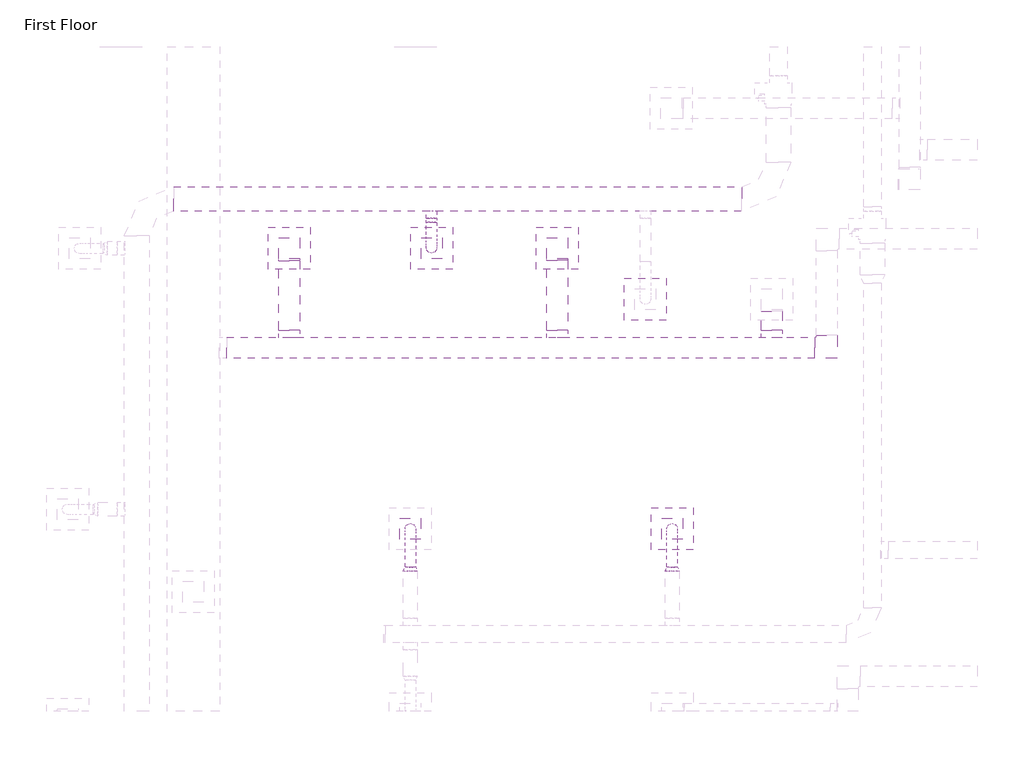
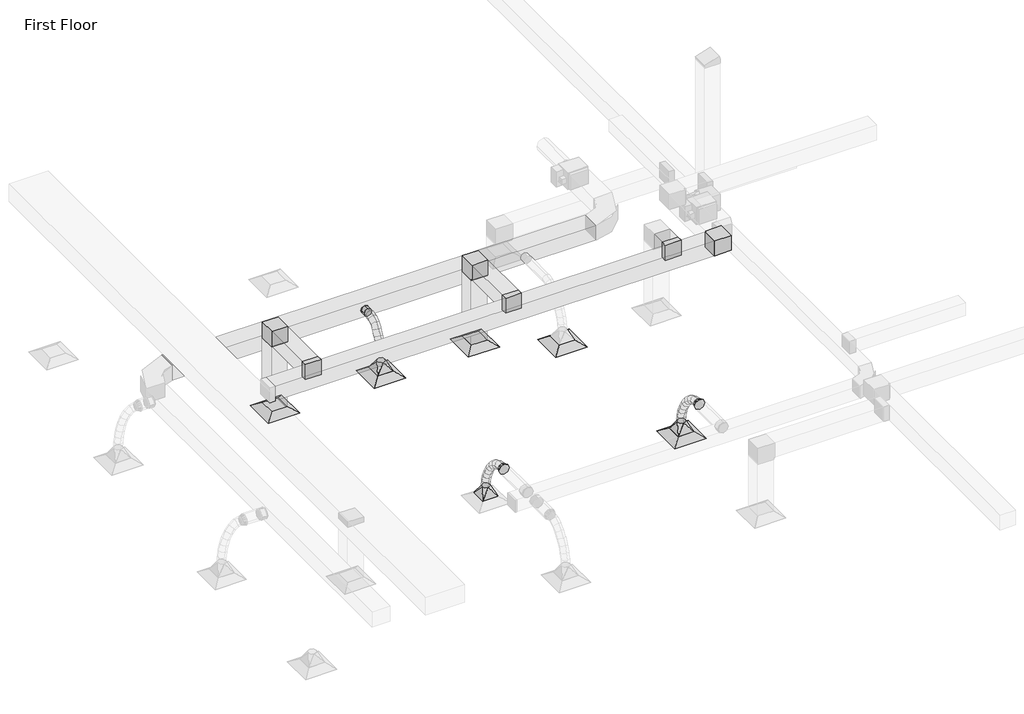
# One storey, part 35 of 61: 12 duct fittings, 11 duct segments, 5 air terminals.
"""IFC4 building model written with IfcOpenShell, lengths in millimetres."""

from ifc_helpers import new_model, si_unit, point, frame, frame_2d, origin, place, context, project, spatial, polyline, circle_curve, ellipse_curve, trimmed, segment, composite_curve, outline, extrude, transform, mapped, element, save
from ifc_brep_helpers import plane_surface, cylinder_surface, advanced_brep
from components import m_exhaust_grill_er_600_x_600_face_300_x_300_connection_ff221211, m_rectangular_elbow_mitered_standard_8eee5933, m_rectangular_takeoff_standard_c00386d1, m_rectangular_to_round_transition_angle_45_degree_8f201c83, m_round_takeoff_standard_2721f8a4, m_round_transition_angle_45_degree_6d7b59ce

model = new_model("IFC4")

# Units and contexts
model_context = context("Model", 3, world=origin())
ifc_project = project(units=[si_unit("LENGTHUNIT", "METRE", prefix="MILLI")], contexts=[model_context])

# Site, building, storey
site = spatial("IfcSite", under=ifc_project)
building = spatial("IfcBuilding", under=site)
storey = spatial("IfcBuildingStorey", under=building, Name="First Floor", Elevation=0.0)

# Air terminals
placement = place(None, origin())
m_exhaust_grill_er_600_x_600_face_300_x_300_connection_shape = m_exhaust_grill_er_600_x_600_face_300_x_300_connection_ff221211(model_context)
element("IfcAirTerminal", 1, ObjectType="M_Return Register : RR-600 x 600 Face 300 x 300 Connection", at=placement, inside=storey, context=model_context, shape_type="MappedRepresentation", body=[
    mapped(m_exhaust_grill_er_600_x_600_face_300_x_300_connection_shape, transform((-47840.5267487, 36905.5458289, 2680.0), x_axis=(1.0, 0.0, 0.0), y_axis=(0.0, 1.0, 0.0), z_axis=(0.0, 0.0, 1.0))),
])
element("IfcAirTerminal", 2, ObjectType="M_Return Register : RR-600 x 600 Face 300 x 300 Connection", at=placement, inside=storey, context=model_context, shape_type="MappedRepresentation", body=[
    mapped(m_exhaust_grill_er_600_x_600_face_300_x_300_connection_shape, transform((-44014.0838167, 36909.8278666, 2680.0), x_axis=(1.0, 0.0, 0.0), y_axis=(0.0, 1.0, 0.0), z_axis=(0.0, 0.0, 1.0))),
])
element("IfcAirTerminal", 3, ObjectType="M_Supply Diffuser : SD-600 x 600 Face 300 x 300 Connection", at=placement, inside=storey, context=model_context, shape_type="MappedRepresentation", body=[
    mapped(m_exhaust_grill_er_600_x_600_face_300_x_300_connection_shape, transform((-45810.12522, 36909.8278666, 2680.0), x_axis=(1.0, 0.0, 0.0), y_axis=(0.0, 1.0, 0.0), z_axis=(0.0, 0.0, 1.0))),
])
element("IfcAirTerminal", 4, ObjectType="M_Supply Diffuser : SD-600 x 600 Face 300 x 300 Connection", at=placement, inside=storey, context=model_context, shape_type="MappedRepresentation", body=[
    mapped(m_exhaust_grill_er_600_x_600_face_300_x_300_connection_shape, transform((-42757.4487409, 36180.4638744, 2680.0), x_axis=(1.0, 0.0, 0.0), y_axis=(0.0, 1.0, 0.0), z_axis=(0.0, 0.0, 1.0))),
])
element("IfcAirTerminal", 5, ObjectType="M_Supply Diffuser : SD-600 x 600 Face 300 x 300 Connection", at=placement, inside=storey, context=model_context, shape_type="MappedRepresentation", body=[
    mapped(m_exhaust_grill_er_600_x_600_face_300_x_300_connection_shape, transform((-42375.0776991, 32905.8000587, 2680.0), x_axis=(1.0, 0.0, 0.0), y_axis=(0.0, 1.0, 0.0), z_axis=(0.0, 0.0, 1.0))),
])

# Duct fittings
m_rectangular_elbow_mitered_standard_shape = m_rectangular_elbow_mitered_standard_8eee5933(model_context)
element("IfcDuctFitting", 6, ObjectType="M_Rectangular Elbow - Mitered : Standard", at=placement, inside=storey, context=model_context, shape_type="MappedRepresentation", body=[
    mapped(m_rectangular_elbow_mitered_standard_shape, transform((-47840.5267487, 36905.5458289, 4259.5), x_axis=(0.0, 0.0, 1.0), y_axis=(0.0, -1.0, 0.0), z_axis=(1.0, 0.0, 0.0))),
])
element("IfcDuctFitting", 7, ObjectType="M_Rectangular Elbow - Mitered : Standard", at=placement, inside=storey, context=model_context, shape_type="MappedRepresentation", body=[
    mapped(m_rectangular_elbow_mitered_standard_shape, transform((-44014.0838167, 36909.8278666, 4259.5), x_axis=(0.0, 0.0, 1.0), y_axis=(0.0, -1.0, 0.0), z_axis=(1.0, 0.0, 0.0))),
])
element("IfcDuctFitting", 8, ObjectType="M_Rectangular Elbow - Mitered : Standard", at=placement, inside=storey, context=model_context, shape_type="MappedRepresentation", body=[
    mapped(m_rectangular_elbow_mitered_standard_shape, transform((-40167.2589113, 35488.5601587, 4259.5), x_axis=(1.0, 0.0, 0.0), y_axis=(0.0, 1.0, 0.0), z_axis=(0.0, 0.0, 1.0))),
])
m_rectangular_takeoff_standard_shape = m_rectangular_takeoff_standard_c00386d1(model_context)
element("IfcDuctFitting", 9, ObjectType="M_Rectangular Takeoff : Standard", at=placement, inside=storey, context=model_context, shape_type="MappedRepresentation", body=[
    mapped(m_rectangular_takeoff_standard_shape, transform((-47840.5267487, 35638.5601587, 4259.5), x_axis=(0.0, 1.0, 0.0), y_axis=(1.0, 0.0, 0.0), z_axis=(0.0, 0.0, -1.0))),
])
element("IfcDuctFitting", 10, ObjectType="M_Rectangular Takeoff : Standard", at=placement, inside=storey, context=model_context, shape_type="MappedRepresentation", body=[
    mapped(m_rectangular_takeoff_standard_shape, transform((-44014.0838167, 35638.5601587, 4259.5), x_axis=(0.0, 1.0, 0.0), y_axis=(1.0, 0.0, 0.0), z_axis=(0.0, 0.0, -1.0))),
])
element("IfcDuctFitting", 11, ObjectType="M_Rectangular Takeoff : Standard", at=placement, inside=storey, context=model_context, shape_type="MappedRepresentation", body=[
    mapped(m_rectangular_takeoff_standard_shape, transform((-40955.8646212, 35638.5601587, 4259.5), x_axis=(0.0, 1.0, 0.0), y_axis=(1.0, 0.0, 0.0), z_axis=(0.0, 0.0, -1.0))),
])
m_rectangular_to_round_transition_angle_45_degree_shape = m_rectangular_to_round_transition_angle_45_degree_8f201c83(model_context)
element("IfcDuctFitting", 12, ObjectType="M_Rectangular to Round Transition - Angle : 45 Degree", at=placement, inside=storey, context=model_context, shape_type="MappedRepresentation", body=[
    mapped(m_rectangular_to_round_transition_angle_45_degree_shape, transform((-45810.12522, 36909.8278666, 2781.6), x_axis=(0.0, 0.0, 1.0), y_axis=(1.0, 0.0, 0.0), z_axis=(0.0, 1.0, 0.0))),
])
element("IfcDuctFitting", 13, ObjectType="M_Rectangular to Round Transition - Angle : 45 Degree", at=placement, inside=storey, context=model_context, shape_type="MappedRepresentation", body=[
    mapped(m_rectangular_to_round_transition_angle_45_degree_shape, transform((-46112.4296862, 32905.8000587, 2781.6), x_axis=(0.0, 0.0, 1.0), y_axis=(1.0, 0.0, 0.0), z_axis=(0.0, 1.0, 0.0))),
])
element("IfcDuctFitting", 14, ObjectType="M_Rectangular to Round Transition - Angle : 45 Degree", at=placement, inside=storey, context=model_context, shape_type="MappedRepresentation", body=[
    mapped(m_rectangular_to_round_transition_angle_45_degree_shape, transform((-42375.0776991, 32905.8000587, 2781.6), x_axis=(0.0, 0.0, 1.0), y_axis=(1.0, 0.0, 0.0), z_axis=(0.0, 1.0, 0.0))),
])
m_round_takeoff_standard_shape = m_round_takeoff_standard_2721f8a4(model_context)
element("IfcDuctFitting", 15, ObjectType="M_Round Takeoff : Standard", at=placement, inside=storey, context=model_context, shape_type="MappedRepresentation", body=[
    mapped(m_round_takeoff_standard_shape, transform((-45810.12522, 37437.2097424, 3669.0), x_axis=(0.0, -1.0, 0.0), y_axis=(-1.0, 0.0, 0.0), z_axis=(0.0, 0.0, -1.0))),
])
m_round_transition_angle_45_degree_shape = m_round_transition_angle_45_degree_6d7b59ce(model_context)
element("IfcDuctFitting", 16, ObjectType="M_Round Transition - Angle : 45 Degree", at=placement, inside=storey, context=model_context, shape_type="MappedRepresentation", body=[
    mapped(m_round_transition_angle_45_degree_shape, transform((-46112.4296862, 32300.6692233, 3659.5), x_axis=(0.0, 1.0, 0.0), y_axis=(-1.0, 0.0, 0.0), z_axis=(0.0, 0.0, 1.0))),
])
element("IfcDuctFitting", 17, ObjectType="M_Round Transition - Angle : 45 Degree", at=placement, inside=storey, context=model_context, shape_type="MappedRepresentation", body=[
    mapped(m_round_transition_angle_45_degree_shape, transform((-42375.0776991, 32300.6692233, 3659.5), x_axis=(0.0, 1.0, 0.0), y_axis=(-1.0, 0.0, 0.0), z_axis=(0.0, 0.0, 1.0))),
])

# Duct segments
element("IfcDuctSegment", 18, ObjectType="Flex - Round", at=placement, inside=storey, context=model_context, shape_type="AdvancedBrep", body=[
    advanced_brep(
    [(-45735.12522, 37272.2097424, 3669.0), (-45810.12522, 37287.8320373, 3595.6450826), (-45885.12522, 37272.2097424, 3669.0), (-45810.12522, 37256.5874475, 3742.3549174), (-45735.12522, 37180.6628821, 3649.5033923), (-45810.12522, 37211.1744043, 3579.3194129), (-45885.12522, 37180.6628821, 3649.5033923), (-45810.12522, 37150.15136, 3719.6873716), (-45735.12522, 36909.8278666, 2962.6660172), (-45810.12522, 36834.9015755, 2965.9903055), (-45885.12522, 36909.8278666, 2962.6660172), (-45810.12522, 36984.7541578, 2959.3417288), (-45735.12522, 37103.9497169, 3595.8479343), (-45810.12522, 37156.1987811, 3540.8678352), (-45885.12522, 37103.9497169, 3595.8479343), (-45810.12522, 37051.7006528, 3650.8280334), (-45735.12522, 37041.2604173, 3515.2851741), (-45810.12522, 37105.135417, 3475.2457022), (-45885.12522, 37041.2604173, 3515.2851741), (-45810.12522, 36977.3854175, 3555.324646), (-45735.12522, 36991.7851535, 3415.0666596), (-45810.12522, 37061.3740468, 3386.6014144), (-45885.12522, 36991.7851535, 3415.0666596), (-45810.12522, 36922.1962603, 3443.5319047), (-45735.12522, 36954.7140962, 3302.4439387), (-45810.12522, 37027.1857316, 3282.7365304), (-45885.12522, 36954.7140962, 3302.4439387), (-45810.12522, 36882.2424607, 3322.1513469), (-45735.12522, 36929.2374156, 3184.6685593), (-45810.12522, 37003.2297936, 3171.991346), (-45885.12522, 36929.2374156, 3184.6685593), (-45810.12522, 36855.2450376, 3197.3457727), (-45735.12522, 36914.5452823, 3068.9920695), (-45810.12522, 36989.3352083, 3062.5942406), (-45885.12522, 36914.5452823, 3068.9920695), (-45810.12522, 36839.7553563, 3075.3898984)],
    [
        (0, 1, circle_curve(frame((-45810.12522, 37272.2097424, 3669.0), z_axis=(0.0, 0.9780655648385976, 0.20829726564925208), x_axis=(1.0, 0.0, 0.0)), 75.0)),
        (1, 2, circle_curve(frame((-45810.12522, 37272.2097424, 3669.0), z_axis=(0.0, 0.9780655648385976, 0.20829726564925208), x_axis=(1.0, 0.0, 0.0)), 75.0)),
        (2, 3, circle_curve(frame((-45810.12522, 37272.2097424, 3669.0), z_axis=(0.0, 0.9780655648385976, 0.20829726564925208), x_axis=(1.0, 0.0, 0.0)), 75.0)),
        (3, 0, circle_curve(frame((-45810.12522, 37272.2097424, 3669.0), z_axis=(0.0, 0.9780655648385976, 0.20829726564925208), x_axis=(1.0, 0.0, 0.0)), 75.0)),
        (0, 4),
        (4, 5, ellipse_curve(frame((-45810.12522, 37180.6628821, 3649.5033923), z_axis=(0.0, 0.9170855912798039, 0.3986903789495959), x_axis=(0.0, 0.39869037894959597, -0.917085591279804)), 76.5293665, 75.0)),
        (5, 1),
        (5, 6, ellipse_curve(frame((-45810.12522, 37180.6628821, 3649.5033923), z_axis=(0.0, 0.9170855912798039, 0.3986903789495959), x_axis=(0.0, 0.39869037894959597, -0.917085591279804)), 76.5293665, 75.0)),
        (6, 2),
        (6, 7, ellipse_curve(frame((-45810.12522, 37180.6628821, 3649.5033923), z_axis=(0.0, 0.9170855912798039, 0.3986903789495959), x_axis=(0.0, 0.39869037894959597, -0.917085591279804)), 76.5293665, 75.0)),
        (7, 3),
        (7, 4, ellipse_curve(frame((-45810.12522, 37180.6628821, 3649.5033923), z_axis=(0.0, 0.9170855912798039, 0.3986903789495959), x_axis=(0.0, 0.39869037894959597, -0.917085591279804)), 76.5293665, 75.0)),
        (8, 9, circle_curve(frame((-45810.12522, 36909.8278666, 2962.6660172), z_axis=(0.0, -0.044323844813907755, -0.999017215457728), x_axis=(1.0, 0.0, 0.0)), 75.0)),
        (9, 10, circle_curve(frame((-45810.12522, 36909.8278666, 2962.6660172), z_axis=(0.0, -0.044323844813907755, -0.999017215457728), x_axis=(1.0, 0.0, 0.0)), 75.0)),
        (10, 11, circle_curve(frame((-45810.12522, 36909.8278666, 2962.6660172), z_axis=(0.0, -0.044323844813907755, -0.999017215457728), x_axis=(1.0, 0.0, 0.0)), 75.0)),
        (11, 8, circle_curve(frame((-45810.12522, 36909.8278666, 2962.6660172), z_axis=(0.0, -0.044323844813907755, -0.999017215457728), x_axis=(1.0, 0.0, 0.0)), 75.0)),
        (4, 12),
        (12, 13, ellipse_curve(frame((-45810.12522, 37103.9497169, 3595.8479343), z_axis=(0.0, 0.7248811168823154, 0.6888739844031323), x_axis=(0.0, 0.6888739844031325, -0.724881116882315)), 75.8470567, 75.0)),
        (13, 5),
        (13, 14, ellipse_curve(frame((-45810.12522, 37103.9497169, 3595.8479343), z_axis=(0.0, 0.7248811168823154, 0.6888739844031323), x_axis=(0.0, 0.6888739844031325, -0.724881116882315)), 75.8470567, 75.0)),
        (14, 6),
        (14, 15, ellipse_curve(frame((-45810.12522, 37103.9497169, 3595.8479343), z_axis=(0.0, 0.7248811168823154, 0.6888739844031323), x_axis=(0.0, 0.6888739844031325, -0.724881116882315)), 75.8470567, 75.0)),
        (15, 7),
        (15, 12, ellipse_curve(frame((-45810.12522, 37103.9497169, 3595.8479343), z_axis=(0.0, 0.7248811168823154, 0.6888739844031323), x_axis=(0.0, 0.6888739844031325, -0.724881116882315)), 75.8470567, 75.0)),
        (12, 16),
        (16, 17, ellipse_curve(frame((-45810.12522, 37041.2604173, 3515.2851741), z_axis=(0.0, 0.5311202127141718, 0.8472964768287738), x_axis=(0.0, 0.847296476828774, -0.5311202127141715)), 75.386835, 75.0)),
        (17, 13),
        (17, 18, ellipse_curve(frame((-45810.12522, 37041.2604173, 3515.2851741), z_axis=(0.0, 0.5311202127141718, 0.8472964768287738), x_axis=(0.0, 0.847296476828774, -0.5311202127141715)), 75.386835, 75.0)),
        (18, 14),
        (18, 19, ellipse_curve(frame((-45810.12522, 37041.2604173, 3515.2851741), z_axis=(0.0, 0.5311202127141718, 0.8472964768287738), x_axis=(0.0, 0.847296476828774, -0.5311202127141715)), 75.386835, 75.0)),
        (19, 15),
        (19, 16, ellipse_curve(frame((-45810.12522, 37041.2604173, 3515.2851741), z_axis=(0.0, 0.5311202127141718, 0.8472964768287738), x_axis=(0.0, 0.847296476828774, -0.5311202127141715)), 75.386835, 75.0)),
        (16, 20),
        (20, 21, ellipse_curve(frame((-45810.12522, 36991.7851535, 3415.0666596), z_axis=(0.0, 0.3785993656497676, 0.9255606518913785), x_axis=(1.0402957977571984e-12, 0.9255606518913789, -0.37859936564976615)), 75.1856651, 75.0)),
        (21, 17),
        (21, 22, ellipse_curve(frame((-45810.12522, 36991.7851535, 3415.0666596), z_axis=(0.0, 0.3785993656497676, 0.9255606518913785), x_axis=(1.0402957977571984e-12, 0.9255606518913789, -0.37859936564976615)), 75.1856651, 75.0)),
        (22, 18),
        (22, 23, ellipse_curve(frame((-45810.12522, 36991.7851535, 3415.0666596), z_axis=(0.0, 0.3785993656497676, 0.9255606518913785), x_axis=(1.0402957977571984e-12, 0.9255606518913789, -0.37859936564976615)), 75.1856651, 75.0)),
        (23, 19),
        (23, 20, ellipse_curve(frame((-45810.12522, 36991.7851535, 3415.0666596), z_axis=(0.0, 0.3785993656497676, 0.9255606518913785), x_axis=(1.0402957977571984e-12, 0.9255606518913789, -0.37859936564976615)), 75.1856651, 75.0)),
        (20, 24),
        (24, 25, ellipse_curve(frame((-45810.12522, 36954.7140962, 3302.4439387), z_axis=(0.0, 0.262403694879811, 0.9649581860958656), x_axis=(0.0, 0.9649581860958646, -0.262403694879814)), 75.1033946, 75.0)),
        (25, 21),
        (25, 26, ellipse_curve(frame((-45810.12522, 36954.7140962, 3302.4439387), z_axis=(0.0, 0.262403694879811, 0.9649581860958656), x_axis=(0.0, 0.9649581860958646, -0.262403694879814)), 75.1033946, 75.0)),
        (26, 22),
        (26, 27, ellipse_curve(frame((-45810.12522, 36954.7140962, 3302.4439387), z_axis=(0.0, 0.262403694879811, 0.9649581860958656), x_axis=(0.0, 0.9649581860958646, -0.262403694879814)), 75.1033946, 75.0)),
        (27, 23),
        (27, 24, ellipse_curve(frame((-45810.12522, 36954.7140962, 3302.4439387), z_axis=(0.0, 0.262403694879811, 0.9649581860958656), x_axis=(0.0, 0.9649581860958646, -0.262403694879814)), 75.1033946, 75.0)),
        (24, 28),
        (28, 29, ellipse_curve(frame((-45810.12522, 36929.2374156, 3184.6685593), z_axis=(0.0, 0.16887071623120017, 0.985638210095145), x_axis=(0.0, 0.9856382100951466, -0.16887071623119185)), 75.0705251, 75.0)),
        (29, 25),
        (29, 30, ellipse_curve(frame((-45810.12522, 36929.2374156, 3184.6685593), z_axis=(0.0, 0.16887071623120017, 0.985638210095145), x_axis=(0.0, 0.9856382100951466, -0.16887071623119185)), 75.0705251, 75.0)),
        (30, 26),
        (30, 31, ellipse_curve(frame((-45810.12522, 36929.2374156, 3184.6685593), z_axis=(0.0, 0.16887071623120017, 0.985638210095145), x_axis=(0.0, 0.9856382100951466, -0.16887071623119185)), 75.0705251, 75.0)),
        (31, 27),
        (31, 28, ellipse_curve(frame((-45810.12522, 36929.2374156, 3184.6685593), z_axis=(0.0, 0.16887071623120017, 0.985638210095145), x_axis=(0.0, 0.9856382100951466, -0.16887071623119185)), 75.0705251, 75.0)),
        (28, 32),
        (32, 33, ellipse_curve(frame((-45810.12522, 36914.5452823, 3068.9920695), z_axis=(0.0, 0.0852327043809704, 0.9963610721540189), x_axis=(0.0, 0.996361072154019, -0.08523270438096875)), 75.0630751, 75.0)),
        (33, 29),
        (33, 34, ellipse_curve(frame((-45810.12522, 36914.5452823, 3068.9920695), z_axis=(0.0, 0.0852327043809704, 0.9963610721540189), x_axis=(0.0, 0.996361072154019, -0.08523270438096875)), 75.0630751, 75.0)),
        (34, 30),
        (34, 35, ellipse_curve(frame((-45810.12522, 36914.5452823, 3068.9920695), z_axis=(0.0, 0.0852327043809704, 0.9963610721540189), x_axis=(0.0, 0.996361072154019, -0.08523270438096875)), 75.0630751, 75.0)),
        (35, 31),
        (35, 32, ellipse_curve(frame((-45810.12522, 36914.5452823, 3068.9920695), z_axis=(0.0, 0.0852327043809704, 0.9963610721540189), x_axis=(0.0, 0.996361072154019, -0.08523270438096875)), 75.0630751, 75.0)),
        (32, 8),
        (11, 33),
        (10, 34),
        (9, 35),
    ],
    [
        plane_surface(frame((-45810.12522, 37287.8320373, 3595.6450826), z_axis=(0.0, 0.9780655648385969, 0.2082972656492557), x_axis=(1.0, 0.0, 0.0))),
        cylinder_surface(frame((-45810.12522, 37272.2097424, 3669.0), z_axis=(0.0, 0.9780655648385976, 0.20829726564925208), x_axis=(1.0, 0.0, 0.0)), 75.0),
        plane_surface(frame((-45810.12522, 36984.7541578, 2959.3417288), z_axis=(0.0, -0.044323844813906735, -0.9990172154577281), x_axis=(1.0, 0.0, 0.0))),
        cylinder_surface(frame((-45810.12522, 37180.6628821, 3649.5033923), z_axis=(0.0, 0.8194514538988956, 0.5731485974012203), x_axis=(1.0, 0.0, 0.0)), 75.0),
        cylinder_surface(frame((-45810.12522, 37103.9497169, 3595.8479343), z_axis=(0.0, 0.6141198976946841, 0.7892127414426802), x_axis=(1.0, 0.0, 0.0)), 75.0),
        cylinder_surface(frame((-45810.12522, 37041.2604173, 3515.2851741), z_axis=(0.0, 0.44266981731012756, 0.8966846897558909), x_axis=(1.0, 0.0, 0.0)), 75.0),
        cylinder_surface(frame((-45810.12522, 36991.7851535, 3415.0666596), z_axis=(0.0, 0.31265907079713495, 0.9498654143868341), x_axis=(1.0, 0.0, 0.0)), 75.0),
        cylinder_surface(frame((-45810.12522, 36954.7140962, 3302.4439387), z_axis=(0.0, 0.21142581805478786, 0.9773940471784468), x_axis=(1.0, 0.0, 0.0)), 75.0),
        cylinder_surface(frame((-45810.12522, 36929.2374156, 3184.6685593), z_axis=(0.0, 0.1259983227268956, 0.9920304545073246), x_axis=(1.0, 0.0, 0.0)), 75.0),
        cylinder_surface(frame((-45810.12522, 36914.5452823, 3068.9920695), z_axis=(0.0, 0.044323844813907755, 0.999017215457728), x_axis=(1.0, 0.0, 0.0)), 75.0),
    ],
    [
        (0, [[1, 2, 3, 4]]),
        (1, [[-1, 5, 6, 7]]),
        (1, [[-2, -7, 8, 9]]),
        (1, [[-3, -9, 10, 11]]),
        (1, [[-4, -11, 12, -5]]),
        (2, [[13, 14, 15, 16]]),
        (3, [[-6, 17, 18, 19]]),
        (3, [[-8, -19, 20, 21]]),
        (3, [[-10, -21, 22, 23]]),
        (3, [[-12, -23, 24, -17]]),
        (4, [[-18, 25, 26, 27]]),
        (4, [[-20, -27, 28, 29]]),
        (4, [[-22, -29, 30, 31]]),
        (4, [[-24, -31, 32, -25]]),
        (5, [[-26, 33, 34, 35]]),
        (5, [[-28, -35, 36, 37]]),
        (5, [[-30, -37, 38, 39]]),
        (5, [[-32, -39, 40, -33]]),
        (6, [[-34, 41, 42, 43]]),
        (6, [[-36, -43, 44, 45]]),
        (6, [[-38, -45, 46, 47]]),
        (6, [[-40, -47, 48, -41]]),
        (7, [[-42, 49, 50, 51]]),
        (7, [[-44, -51, 52, 53]]),
        (7, [[-46, -53, 54, 55]]),
        (7, [[-48, -55, 56, -49]]),
        (8, [[-50, 57, 58, 59]]),
        (8, [[-52, -59, 60, 61]]),
        (8, [[-54, -61, 62, 63]]),
        (8, [[-56, -63, 64, -57]]),
        (9, [[-58, 65, -16, 66]]),
        (9, [[-60, -66, -15, 67]]),
        (9, [[-62, -67, -14, 68]]),
        (9, [[-64, -68, -13, -65]]),
    ],
),
])
element("IfcDuctSegment", 19, ObjectType="Flex - Round", at=placement, inside=storey, context=model_context, shape_type="AdvancedBrep", body=[
    advanced_brep(
    [(-46187.4296862, 32361.0245624, 3659.5), (-46112.4296862, 32348.8016606, 3585.5026982), (-46037.4296862, 32361.0245624, 3659.5), (-46112.4296862, 32373.2474641, 3733.4973018), (-46187.4296862, 32469.0832556, 3641.650825), (-46112.4296862, 32446.024424, 3569.4434061), (-46037.4296862, 32469.0832556, 3641.650825), (-46112.4296862, 32492.1420872, 3713.8582438), (-46187.4296862, 32905.8000587, 2962.6660172), (-46112.4296862, 32980.4370658, 2970.0360353), (-46037.4296862, 32905.8000587, 2962.6660172), (-46112.4296862, 32831.1630516, 2955.295999), (-46187.4296862, 32570.5299525, 3592.0810965), (-46112.4296862, 32529.8450235, 3528.4862878), (-46037.4296862, 32570.5299525, 3592.0810965), (-46112.4296862, 32611.2148815, 3655.6759051), (-46187.4296862, 32662.9618289, 3516.7575094), (-46112.4296862, 32610.2923605, 3462.9290123), (-46037.4296862, 32662.9618289, 3516.7575094), (-46112.4296862, 32715.6312973, 3570.5860065), (-46187.4296862, 32743.9760606, 3421.6467587), (-46112.4296862, 32683.157808, 3377.3849384), (-46037.4296862, 32743.9760606, 3421.6467587), (-46112.4296862, 32804.7943132, 3465.9085789), (-46187.4296862, 32811.1698236, 3312.7155392), (-46112.4296862, 32744.5528607, 3277.8543025), (-46037.4296862, 32811.1698236, 3312.7155392), (-46112.4296862, 32877.7867864, 3347.5767758), (-46187.4296862, 32862.1402937, 3195.9305458), (-46112.4296862, 32791.2164855, 3170.9372759), (-46037.4296862, 32862.1402937, 3195.9305458), (-46112.4296862, 32933.0641018, 3220.9238158), (-46187.4296862, 32894.4846468, 3077.2584735), (-46112.4296862, 32820.4669325, 3063.6168062), (-46037.4296862, 32894.4846468, 3077.2584735), (-46112.4296862, 32968.502361, 3090.9001408)],
    [
        (0, 1, circle_curve(frame((-46112.4296862, 32361.0245624, 3659.5), z_axis=(0.0, -0.9866306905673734, 0.16297202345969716), x_axis=(-1.0, 0.0, 0.0)), 75.0)),
        (1, 2, circle_curve(frame((-46112.4296862, 32361.0245624, 3659.5), z_axis=(0.0, -0.9866306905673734, 0.16297202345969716), x_axis=(-1.0, 0.0, 0.0)), 75.0)),
        (2, 3, circle_curve(frame((-46112.4296862, 32361.0245624, 3659.5), z_axis=(0.0, -0.9866306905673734, 0.16297202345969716), x_axis=(-1.0, 0.0, 0.0)), 75.0)),
        (3, 0, circle_curve(frame((-46112.4296862, 32361.0245624, 3659.5), z_axis=(0.0, -0.9866306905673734, 0.16297202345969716), x_axis=(-1.0, 0.0, 0.0)), 75.0)),
        (0, 4),
        (4, 5, ellipse_curve(frame((-46112.4296862, 32469.0832556, 3641.650825), z_axis=(0.0, -0.9526060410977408, 0.3042067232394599), x_axis=(0.0, -0.30420672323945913, -0.952606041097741)), 75.799875, 75.0)),
        (5, 1),
        (5, 6, ellipse_curve(frame((-46112.4296862, 32469.0832556, 3641.650825), z_axis=(0.0, -0.9526060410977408, 0.3042067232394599), x_axis=(0.0, -0.30420672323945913, -0.952606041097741)), 75.799875, 75.0)),
        (6, 2),
        (6, 7, ellipse_curve(frame((-46112.4296862, 32469.0832556, 3641.650825), z_axis=(0.0, -0.9526060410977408, 0.3042067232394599), x_axis=(0.0, -0.30420672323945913, -0.952606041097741)), 75.799875, 75.0)),
        (7, 3),
        (7, 4, ellipse_curve(frame((-46112.4296862, 32469.0832556, 3641.650825), z_axis=(0.0, -0.9526060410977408, 0.3042067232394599), x_axis=(0.0, -0.30420672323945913, -0.952606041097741)), 75.799875, 75.0)),
        (8, 9, circle_curve(frame((-46112.4296862, 32905.8000587, 2962.6660172), z_axis=(0.0, 0.09826690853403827, -0.9951600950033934), x_axis=(-1.0, 0.0, 0.0)), 75.0)),
        (9, 10, circle_curve(frame((-46112.4296862, 32905.8000587, 2962.6660172), z_axis=(0.0, 0.09826690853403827, -0.9951600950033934), x_axis=(-1.0, 0.0, 0.0)), 75.0)),
        (10, 11, circle_curve(frame((-46112.4296862, 32905.8000587, 2962.6660172), z_axis=(0.0, 0.09826690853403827, -0.9951600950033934), x_axis=(-1.0, 0.0, 0.0)), 75.0)),
        (11, 8, circle_curve(frame((-46112.4296862, 32905.8000587, 2962.6660172), z_axis=(0.0, 0.09826690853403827, -0.9951600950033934), x_axis=(-1.0, 0.0, 0.0)), 75.0)),
        (4, 12),
        (12, 13, ellipse_curve(frame((-46112.4296862, 32570.5299525, 3592.0810965), z_axis=(0.0, -0.8423660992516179, 0.538905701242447), x_axis=(0.0, -0.538905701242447, -0.8423660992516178)), 75.4954511, 75.0)),
        (13, 5),
        (13, 14, ellipse_curve(frame((-46112.4296862, 32570.5299525, 3592.0810965), z_axis=(0.0, -0.8423660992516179, 0.538905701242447), x_axis=(0.0, -0.538905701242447, -0.8423660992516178)), 75.4954511, 75.0)),
        (14, 6),
        (14, 15, ellipse_curve(frame((-46112.4296862, 32570.5299525, 3592.0810965), z_axis=(0.0, -0.8423660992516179, 0.538905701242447), x_axis=(0.0, -0.538905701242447, -0.8423660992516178)), 75.4954511, 75.0)),
        (15, 7),
        (15, 12, ellipse_curve(frame((-46112.4296862, 32570.5299525, 3592.0810965), z_axis=(0.0, -0.8423660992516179, 0.538905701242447), x_axis=(0.0, -0.538905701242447, -0.8423660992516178)), 75.4954511, 75.0)),
        (12, 16),
        (16, 17, ellipse_curve(frame((-46112.4296862, 32662.9618289, 3516.7575094), z_axis=(0.0, -0.7147599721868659, 0.6993698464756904), x_axis=(0.0, -0.6993698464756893, -0.7147599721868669)), 75.3098931, 75.0)),
        (17, 13),
        (17, 18, ellipse_curve(frame((-46112.4296862, 32662.9618289, 3516.7575094), z_axis=(0.0, -0.7147599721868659, 0.6993698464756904), x_axis=(0.0, -0.6993698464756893, -0.7147599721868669)), 75.3098931, 75.0)),
        (18, 14),
        (18, 19, ellipse_curve(frame((-46112.4296862, 32662.9618289, 3516.7575094), z_axis=(0.0, -0.7147599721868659, 0.6993698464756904), x_axis=(0.0, -0.6993698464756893, -0.7147599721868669)), 75.3098931, 75.0)),
        (19, 15),
        (19, 16, ellipse_curve(frame((-46112.4296862, 32662.9618289, 3516.7575094), z_axis=(0.0, -0.7147599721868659, 0.6993698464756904), x_axis=(0.0, -0.6993698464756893, -0.7147599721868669)), 75.3098931, 75.0)),
        (16, 20),
        (20, 21, ellipse_curve(frame((-46112.4296862, 32743.9760606, 3421.6467587), z_axis=(0.0, -0.5884356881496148, 0.8085440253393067), x_axis=(0.0, -0.8085440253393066, -0.5884356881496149)), 75.2194694, 75.0)),
        (21, 17),
        (21, 22, ellipse_curve(frame((-46112.4296862, 32743.9760606, 3421.6467587), z_axis=(0.0, -0.5884356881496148, 0.8085440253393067), x_axis=(0.0, -0.8085440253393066, -0.5884356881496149)), 75.2194694, 75.0)),
        (22, 18),
        (22, 23, ellipse_curve(frame((-46112.4296862, 32743.9760606, 3421.6467587), z_axis=(0.0, -0.5884356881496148, 0.8085440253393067), x_axis=(0.0, -0.8085440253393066, -0.5884356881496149)), 75.2194694, 75.0)),
        (23, 19),
        (23, 20, ellipse_curve(frame((-46112.4296862, 32743.9760606, 3421.6467587), z_axis=(0.0, -0.5884356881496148, 0.8085440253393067), x_axis=(0.0, -0.8085440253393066, -0.5884356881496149)), 75.2194694, 75.0)),
        (20, 24),
        (24, 25, ellipse_curve(frame((-46112.4296862, 32811.1698236, 3312.7155392), z_axis=(0.0, -0.4636587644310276, 0.88601385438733), x_axis=(0.0, -0.8860138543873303, -0.4636587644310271)), 75.1872699, 75.0)),
        (25, 21),
        (25, 26, ellipse_curve(frame((-46112.4296862, 32811.1698236, 3312.7155392), z_axis=(0.0, -0.4636587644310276, 0.88601385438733), x_axis=(0.0, -0.8860138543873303, -0.4636587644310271)), 75.1872699, 75.0)),
        (26, 22),
        (26, 27, ellipse_curve(frame((-46112.4296862, 32811.1698236, 3312.7155392), z_axis=(0.0, -0.4636587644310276, 0.88601385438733), x_axis=(0.0, -0.8860138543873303, -0.4636587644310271)), 75.1872699, 75.0)),
        (27, 23),
        (27, 24, ellipse_curve(frame((-46112.4296862, 32811.1698236, 3312.7155392), z_axis=(0.0, -0.4636587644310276, 0.88601385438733), x_axis=(0.0, -0.8860138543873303, -0.4636587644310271)), 75.1872699, 75.0)),
        (24, 28),
        (28, 29, ellipse_curve(frame((-46112.4296862, 32862.1402937, 3195.9305458), z_axis=(0.0, -0.3323628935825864, 0.9431515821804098), x_axis=(0.0, -0.9431515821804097, -0.3323628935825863)), 75.1987374, 75.0)),
        (29, 25),
        (29, 30, ellipse_curve(frame((-46112.4296862, 32862.1402937, 3195.9305458), z_axis=(0.0, -0.3323628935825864, 0.9431515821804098), x_axis=(0.0, -0.9431515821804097, -0.3323628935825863)), 75.1987374, 75.0)),
        (30, 26),
        (30, 31, ellipse_curve(frame((-46112.4296862, 32862.1402937, 3195.9305458), z_axis=(0.0, -0.3323628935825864, 0.9431515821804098), x_axis=(0.0, -0.9431515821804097, -0.3323628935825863)), 75.1987374, 75.0)),
        (31, 27),
        (31, 28, ellipse_curve(frame((-46112.4296862, 32862.1402937, 3195.9305458), z_axis=(0.0, -0.3323628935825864, 0.9431515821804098), x_axis=(0.0, -0.9431515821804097, -0.3323628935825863)), 75.1987374, 75.0)),
        (28, 32),
        (32, 33, ellipse_curve(frame((-46112.4296862, 32894.4846468, 3077.2584735), z_axis=(0.0, -0.18125013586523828, 0.983437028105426), x_axis=(0.0, -0.9834370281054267, -0.18125013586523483)), 75.264315, 75.0)),
        (33, 29),
        (33, 34, ellipse_curve(frame((-46112.4296862, 32894.4846468, 3077.2584735), z_axis=(0.0, -0.18125013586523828, 0.983437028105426), x_axis=(0.0, -0.9834370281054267, -0.18125013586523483)), 75.264315, 75.0)),
        (34, 30),
        (34, 35, ellipse_curve(frame((-46112.4296862, 32894.4846468, 3077.2584735), z_axis=(0.0, -0.18125013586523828, 0.983437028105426), x_axis=(0.0, -0.9834370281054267, -0.18125013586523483)), 75.264315, 75.0)),
        (35, 31),
        (35, 32, ellipse_curve(frame((-46112.4296862, 32894.4846468, 3077.2584735), z_axis=(0.0, -0.18125013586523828, 0.983437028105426), x_axis=(0.0, -0.9834370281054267, -0.18125013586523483)), 75.264315, 75.0)),
        (32, 8),
        (11, 33),
        (10, 34),
        (9, 35),
    ],
    [
        plane_surface(frame((-46112.4296862, 32373.2474641, 3733.4973018), z_axis=(0.0, -0.9866306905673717, 0.1629720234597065), x_axis=(1.0, 0.0, 0.0))),
        cylinder_surface(frame((-46112.4296862, 32361.0245624, 3659.5), z_axis=(0.0, -0.9866306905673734, 0.16297202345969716), x_axis=(-1.0, 0.0, 0.0)), 75.0),
        plane_surface(frame((-46112.4296862, 32980.4370658, 2970.0360353), z_axis=(0.0, 0.09826690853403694, -0.9951600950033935), x_axis=(1.0, 0.0, 0.0))),
        cylinder_surface(frame((-46112.4296862, 32469.0832556, 3641.650825), z_axis=(0.0, -0.8984767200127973, 0.43902116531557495), x_axis=(-1.0, 0.0, 0.0)), 75.0),
        cylinder_surface(frame((-46112.4296862, 32570.5299525, 3592.0810965), z_axis=(0.0, -0.7751991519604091, 0.631716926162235), x_axis=(-1.0, 0.0, 0.0)), 75.0),
        cylinder_surface(frame((-46112.4296862, 32662.9618289, 3516.7575094), z_axis=(0.0, -0.6484384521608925, 0.7612670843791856), x_axis=(-1.0, 0.0, 0.0)), 75.0),
        cylinder_surface(frame((-46112.4296862, 32743.9760606, 3421.6467587), z_axis=(0.0, -0.5249991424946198, 0.8511027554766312), x_axis=(-1.0, 0.0, 0.0)), 75.0),
        cylinder_surface(frame((-46112.4296862, 32811.1698236, 3312.7155392), z_axis=(0.0, -0.400008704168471, 0.9165113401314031), x_axis=(-1.0, 0.0, 0.0)), 75.0),
        cylinder_surface(frame((-46112.4296862, 32862.1402937, 3195.9305458), z_axis=(0.0, -0.26296032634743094, 0.964806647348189), x_axis=(-1.0, 0.0, 0.0)), 75.0),
        cylinder_surface(frame((-46112.4296862, 32894.4846468, 3077.2584735), z_axis=(0.0, -0.09826690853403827, 0.9951600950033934), x_axis=(-1.0, 0.0, 0.0)), 75.0),
    ],
    [
        (0, [[1, 2, 3, 4]]),
        (1, [[-1, 5, 6, 7]]),
        (1, [[-2, -7, 8, 9]]),
        (1, [[-3, -9, 10, 11]]),
        (1, [[-4, -11, 12, -5]]),
        (2, [[13, 14, 15, 16]]),
        (3, [[-6, 17, 18, 19]]),
        (3, [[-8, -19, 20, 21]]),
        (3, [[-10, -21, 22, 23]]),
        (3, [[-12, -23, 24, -17]]),
        (4, [[-18, 25, 26, 27]]),
        (4, [[-20, -27, 28, 29]]),
        (4, [[-22, -29, 30, 31]]),
        (4, [[-24, -31, 32, -25]]),
        (5, [[-26, 33, 34, 35]]),
        (5, [[-28, -35, 36, 37]]),
        (5, [[-30, -37, 38, 39]]),
        (5, [[-32, -39, 40, -33]]),
        (6, [[-34, 41, 42, 43]]),
        (6, [[-36, -43, 44, 45]]),
        (6, [[-38, -45, 46, 47]]),
        (6, [[-40, -47, 48, -41]]),
        (7, [[-42, 49, 50, 51]]),
        (7, [[-44, -51, 52, 53]]),
        (7, [[-46, -53, 54, 55]]),
        (7, [[-48, -55, 56, -49]]),
        (8, [[-50, 57, 58, 59]]),
        (8, [[-52, -59, 60, 61]]),
        (8, [[-54, -61, 62, 63]]),
        (8, [[-56, -63, 64, -57]]),
        (9, [[-58, 65, -16, 66]]),
        (9, [[-60, -66, -15, 67]]),
        (9, [[-62, -67, -14, 68]]),
        (9, [[-64, -68, -13, -65]]),
    ],
),
])
element("IfcDuctSegment", 20, ObjectType="Flex - Round", at=placement, inside=storey, context=model_context, shape_type="AdvancedBrep", body=[
    advanced_brep(
    [(-42450.0776991, 32361.0245624, 3659.5), (-42375.0776991, 32348.8016606, 3585.5026982), (-42300.0776991, 32361.0245624, 3659.5), (-42375.0776991, 32373.2474641, 3733.4973018), (-42450.0776991, 32469.0832556, 3641.650825), (-42375.0776991, 32446.024424, 3569.4434061), (-42300.0776991, 32469.0832556, 3641.650825), (-42375.0776991, 32492.1420872, 3713.8582438), (-42450.0776991, 32905.8000587, 2962.6660172), (-42375.0776991, 32980.4370658, 2970.0360353), (-42300.0776991, 32905.8000587, 2962.6660172), (-42375.0776991, 32831.1630516, 2955.295999), (-42450.0776991, 32570.5299525, 3592.0810965), (-42375.0776991, 32529.8450235, 3528.4862878), (-42300.0776991, 32570.5299525, 3592.0810965), (-42375.0776991, 32611.2148815, 3655.6759051), (-42450.0776991, 32662.9618289, 3516.7575094), (-42375.0776991, 32610.2923605, 3462.9290123), (-42300.0776991, 32662.9618289, 3516.7575094), (-42375.0776991, 32715.6312973, 3570.5860065), (-42450.0776991, 32743.9760606, 3421.6467587), (-42375.0776991, 32683.157808, 3377.3849384), (-42300.0776991, 32743.9760606, 3421.6467587), (-42375.0776991, 32804.7943132, 3465.9085789), (-42450.0776991, 32811.1698236, 3312.7155392), (-42375.0776991, 32744.5528607, 3277.8543025), (-42300.0776991, 32811.1698236, 3312.7155392), (-42375.0776991, 32877.7867864, 3347.5767758), (-42450.0776991, 32862.1402937, 3195.9305458), (-42375.0776991, 32791.2164855, 3170.9372759), (-42300.0776991, 32862.1402937, 3195.9305458), (-42375.0776991, 32933.0641018, 3220.9238158), (-42450.0776991, 32894.4846468, 3077.2584735), (-42375.0776991, 32820.4669325, 3063.6168062), (-42300.0776991, 32894.4846468, 3077.2584735), (-42375.0776991, 32968.502361, 3090.9001408)],
    [
        (0, 1, circle_curve(frame((-42375.0776991, 32361.0245624, 3659.5), z_axis=(0.0, -0.9866306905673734, 0.16297202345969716), x_axis=(-1.0, 0.0, 0.0)), 75.0)),
        (1, 2, circle_curve(frame((-42375.0776991, 32361.0245624, 3659.5), z_axis=(0.0, -0.9866306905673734, 0.16297202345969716), x_axis=(-1.0, 0.0, 0.0)), 75.0)),
        (2, 3, circle_curve(frame((-42375.0776991, 32361.0245624, 3659.5), z_axis=(0.0, -0.9866306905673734, 0.16297202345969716), x_axis=(-1.0, 0.0, 0.0)), 75.0)),
        (3, 0, circle_curve(frame((-42375.0776991, 32361.0245624, 3659.5), z_axis=(0.0, -0.9866306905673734, 0.16297202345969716), x_axis=(-1.0, 0.0, 0.0)), 75.0)),
        (0, 4),
        (4, 5, ellipse_curve(frame((-42375.0776991, 32469.0832556, 3641.650825), z_axis=(0.0, -0.9526060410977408, 0.3042067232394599), x_axis=(0.0, -0.30420672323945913, -0.952606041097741)), 75.799875, 75.0)),
        (5, 1),
        (5, 6, ellipse_curve(frame((-42375.0776991, 32469.0832556, 3641.650825), z_axis=(0.0, -0.9526060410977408, 0.3042067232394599), x_axis=(0.0, -0.30420672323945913, -0.952606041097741)), 75.799875, 75.0)),
        (6, 2),
        (6, 7, ellipse_curve(frame((-42375.0776991, 32469.0832556, 3641.650825), z_axis=(0.0, -0.9526060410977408, 0.3042067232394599), x_axis=(0.0, -0.30420672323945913, -0.952606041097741)), 75.799875, 75.0)),
        (7, 3),
        (7, 4, ellipse_curve(frame((-42375.0776991, 32469.0832556, 3641.650825), z_axis=(0.0, -0.9526060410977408, 0.3042067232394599), x_axis=(0.0, -0.30420672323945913, -0.952606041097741)), 75.799875, 75.0)),
        (8, 9, circle_curve(frame((-42375.0776991, 32905.8000587, 2962.6660172), z_axis=(0.0, 0.09826690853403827, -0.9951600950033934), x_axis=(-1.0, 0.0, 0.0)), 75.0)),
        (9, 10, circle_curve(frame((-42375.0776991, 32905.8000587, 2962.6660172), z_axis=(0.0, 0.09826690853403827, -0.9951600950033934), x_axis=(-1.0, 0.0, 0.0)), 75.0)),
        (10, 11, circle_curve(frame((-42375.0776991, 32905.8000587, 2962.6660172), z_axis=(0.0, 0.09826690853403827, -0.9951600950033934), x_axis=(-1.0, 0.0, 0.0)), 75.0)),
        (11, 8, circle_curve(frame((-42375.0776991, 32905.8000587, 2962.6660172), z_axis=(0.0, 0.09826690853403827, -0.9951600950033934), x_axis=(-1.0, 0.0, 0.0)), 75.0)),
        (4, 12),
        (12, 13, ellipse_curve(frame((-42375.0776991, 32570.5299525, 3592.0810965), z_axis=(0.0, -0.8423660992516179, 0.538905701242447), x_axis=(0.0, -0.538905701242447, -0.8423660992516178)), 75.4954511, 75.0)),
        (13, 5),
        (13, 14, ellipse_curve(frame((-42375.0776991, 32570.5299525, 3592.0810965), z_axis=(0.0, -0.8423660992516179, 0.538905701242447), x_axis=(0.0, -0.538905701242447, -0.8423660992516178)), 75.4954511, 75.0)),
        (14, 6),
        (14, 15, ellipse_curve(frame((-42375.0776991, 32570.5299525, 3592.0810965), z_axis=(0.0, -0.8423660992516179, 0.538905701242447), x_axis=(0.0, -0.538905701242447, -0.8423660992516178)), 75.4954511, 75.0)),
        (15, 7),
        (15, 12, ellipse_curve(frame((-42375.0776991, 32570.5299525, 3592.0810965), z_axis=(0.0, -0.8423660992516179, 0.538905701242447), x_axis=(0.0, -0.538905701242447, -0.8423660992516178)), 75.4954511, 75.0)),
        (12, 16),
        (16, 17, ellipse_curve(frame((-42375.0776991, 32662.9618289, 3516.7575094), z_axis=(0.0, -0.7147599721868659, 0.6993698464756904), x_axis=(0.0, -0.6993698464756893, -0.7147599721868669)), 75.3098931, 75.0)),
        (17, 13),
        (17, 18, ellipse_curve(frame((-42375.0776991, 32662.9618289, 3516.7575094), z_axis=(0.0, -0.7147599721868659, 0.6993698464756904), x_axis=(0.0, -0.6993698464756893, -0.7147599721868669)), 75.3098931, 75.0)),
        (18, 14),
        (18, 19, ellipse_curve(frame((-42375.0776991, 32662.9618289, 3516.7575094), z_axis=(0.0, -0.7147599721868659, 0.6993698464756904), x_axis=(0.0, -0.6993698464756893, -0.7147599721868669)), 75.3098931, 75.0)),
        (19, 15),
        (19, 16, ellipse_curve(frame((-42375.0776991, 32662.9618289, 3516.7575094), z_axis=(0.0, -0.7147599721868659, 0.6993698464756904), x_axis=(0.0, -0.6993698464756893, -0.7147599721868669)), 75.3098931, 75.0)),
        (16, 20),
        (20, 21, ellipse_curve(frame((-42375.0776991, 32743.9760606, 3421.6467587), z_axis=(0.0, -0.5884356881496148, 0.8085440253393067), x_axis=(0.0, -0.8085440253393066, -0.5884356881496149)), 75.2194694, 75.0)),
        (21, 17),
        (21, 22, ellipse_curve(frame((-42375.0776991, 32743.9760606, 3421.6467587), z_axis=(0.0, -0.5884356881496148, 0.8085440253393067), x_axis=(0.0, -0.8085440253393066, -0.5884356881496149)), 75.2194694, 75.0)),
        (22, 18),
        (22, 23, ellipse_curve(frame((-42375.0776991, 32743.9760606, 3421.6467587), z_axis=(0.0, -0.5884356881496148, 0.8085440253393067), x_axis=(0.0, -0.8085440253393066, -0.5884356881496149)), 75.2194694, 75.0)),
        (23, 19),
        (23, 20, ellipse_curve(frame((-42375.0776991, 32743.9760606, 3421.6467587), z_axis=(0.0, -0.5884356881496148, 0.8085440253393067), x_axis=(0.0, -0.8085440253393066, -0.5884356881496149)), 75.2194694, 75.0)),
        (20, 24),
        (24, 25, ellipse_curve(frame((-42375.0776991, 32811.1698236, 3312.7155392), z_axis=(0.0, -0.4636587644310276, 0.88601385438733), x_axis=(0.0, -0.8860138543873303, -0.4636587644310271)), 75.1872699, 75.0)),
        (25, 21),
        (25, 26, ellipse_curve(frame((-42375.0776991, 32811.1698236, 3312.7155392), z_axis=(0.0, -0.4636587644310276, 0.88601385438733), x_axis=(0.0, -0.8860138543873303, -0.4636587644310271)), 75.1872699, 75.0)),
        (26, 22),
        (26, 27, ellipse_curve(frame((-42375.0776991, 32811.1698236, 3312.7155392), z_axis=(0.0, -0.4636587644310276, 0.88601385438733), x_axis=(0.0, -0.8860138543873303, -0.4636587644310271)), 75.1872699, 75.0)),
        (27, 23),
        (27, 24, ellipse_curve(frame((-42375.0776991, 32811.1698236, 3312.7155392), z_axis=(0.0, -0.4636587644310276, 0.88601385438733), x_axis=(0.0, -0.8860138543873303, -0.4636587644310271)), 75.1872699, 75.0)),
        (24, 28),
        (28, 29, ellipse_curve(frame((-42375.0776991, 32862.1402937, 3195.9305458), z_axis=(0.0, -0.3323628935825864, 0.9431515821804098), x_axis=(0.0, -0.9431515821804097, -0.3323628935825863)), 75.1987374, 75.0)),
        (29, 25),
        (29, 30, ellipse_curve(frame((-42375.0776991, 32862.1402937, 3195.9305458), z_axis=(0.0, -0.3323628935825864, 0.9431515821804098), x_axis=(0.0, -0.9431515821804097, -0.3323628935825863)), 75.1987374, 75.0)),
        (30, 26),
        (30, 31, ellipse_curve(frame((-42375.0776991, 32862.1402937, 3195.9305458), z_axis=(0.0, -0.3323628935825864, 0.9431515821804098), x_axis=(0.0, -0.9431515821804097, -0.3323628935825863)), 75.1987374, 75.0)),
        (31, 27),
        (31, 28, ellipse_curve(frame((-42375.0776991, 32862.1402937, 3195.9305458), z_axis=(0.0, -0.3323628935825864, 0.9431515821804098), x_axis=(0.0, -0.9431515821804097, -0.3323628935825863)), 75.1987374, 75.0)),
        (28, 32),
        (32, 33, ellipse_curve(frame((-42375.0776991, 32894.4846468, 3077.2584735), z_axis=(0.0, -0.18125013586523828, 0.983437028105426), x_axis=(0.0, -0.9834370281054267, -0.18125013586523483)), 75.264315, 75.0)),
        (33, 29),
        (33, 34, ellipse_curve(frame((-42375.0776991, 32894.4846468, 3077.2584735), z_axis=(0.0, -0.18125013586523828, 0.983437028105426), x_axis=(0.0, -0.9834370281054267, -0.18125013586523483)), 75.264315, 75.0)),
        (34, 30),
        (34, 35, ellipse_curve(frame((-42375.0776991, 32894.4846468, 3077.2584735), z_axis=(0.0, -0.18125013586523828, 0.983437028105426), x_axis=(0.0, -0.9834370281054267, -0.18125013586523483)), 75.264315, 75.0)),
        (35, 31),
        (35, 32, ellipse_curve(frame((-42375.0776991, 32894.4846468, 3077.2584735), z_axis=(0.0, -0.18125013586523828, 0.983437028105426), x_axis=(0.0, -0.9834370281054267, -0.18125013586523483)), 75.264315, 75.0)),
        (32, 8),
        (11, 33),
        (10, 34),
        (9, 35),
    ],
    [
        plane_surface(frame((-42375.0776991, 32373.2474641, 3733.4973018), z_axis=(0.0, -0.9866306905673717, 0.1629720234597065), x_axis=(1.0, 0.0, 0.0))),
        cylinder_surface(frame((-42375.0776991, 32361.0245624, 3659.5), z_axis=(0.0, -0.9866306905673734, 0.16297202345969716), x_axis=(-1.0, 0.0, 0.0)), 75.0),
        plane_surface(frame((-42375.0776991, 32980.4370658, 2970.0360353), z_axis=(0.0, 0.09826690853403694, -0.9951600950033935), x_axis=(1.0, 0.0, 0.0))),
        cylinder_surface(frame((-42375.0776991, 32469.0832556, 3641.650825), z_axis=(0.0, -0.8984767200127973, 0.43902116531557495), x_axis=(-1.0, 0.0, 0.0)), 75.0),
        cylinder_surface(frame((-42375.0776991, 32570.5299525, 3592.0810965), z_axis=(0.0, -0.7751991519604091, 0.631716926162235), x_axis=(-1.0, 0.0, 0.0)), 75.0),
        cylinder_surface(frame((-42375.0776991, 32662.9618289, 3516.7575094), z_axis=(0.0, -0.6484384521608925, 0.7612670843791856), x_axis=(-1.0, 0.0, 0.0)), 75.0),
        cylinder_surface(frame((-42375.0776991, 32743.9760606, 3421.6467587), z_axis=(0.0, -0.5249991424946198, 0.8511027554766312), x_axis=(-1.0, 0.0, 0.0)), 75.0),
        cylinder_surface(frame((-42375.0776991, 32811.1698236, 3312.7155392), z_axis=(0.0, -0.400008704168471, 0.9165113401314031), x_axis=(-1.0, 0.0, 0.0)), 75.0),
        cylinder_surface(frame((-42375.0776991, 32862.1402937, 3195.9305458), z_axis=(0.0, -0.26296032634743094, 0.964806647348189), x_axis=(-1.0, 0.0, 0.0)), 75.0),
        cylinder_surface(frame((-42375.0776991, 32894.4846468, 3077.2584735), z_axis=(0.0, -0.09826690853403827, 0.9951600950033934), x_axis=(-1.0, 0.0, 0.0)), 75.0),
    ],
    [
        (0, [[1, 2, 3, 4]]),
        (1, [[-1, 5, 6, 7]]),
        (1, [[-2, -7, 8, 9]]),
        (1, [[-3, -9, 10, 11]]),
        (1, [[-4, -11, 12, -5]]),
        (2, [[13, 14, 15, 16]]),
        (3, [[-6, 17, 18, 19]]),
        (3, [[-8, -19, 20, 21]]),
        (3, [[-10, -21, 22, 23]]),
        (3, [[-12, -23, 24, -17]]),
        (4, [[-18, 25, 26, 27]]),
        (4, [[-20, -27, 28, 29]]),
        (4, [[-22, -29, 30, 31]]),
        (4, [[-24, -31, 32, -25]]),
        (5, [[-26, 33, 34, 35]]),
        (5, [[-28, -35, 36, 37]]),
        (5, [[-30, -37, 38, 39]]),
        (5, [[-32, -39, 40, -33]]),
        (6, [[-34, 41, 42, 43]]),
        (6, [[-36, -43, 44, 45]]),
        (6, [[-38, -45, 46, 47]]),
        (6, [[-40, -47, 48, -41]]),
        (7, [[-42, 49, 50, 51]]),
        (7, [[-44, -51, 52, 53]]),
        (7, [[-46, -53, 54, 55]]),
        (7, [[-48, -55, 56, -49]]),
        (8, [[-50, 57, 58, 59]]),
        (8, [[-52, -59, 60, 61]]),
        (8, [[-54, -61, 62, 63]]),
        (8, [[-56, -63, 64, -57]]),
        (9, [[-58, 65, -16, 66]]),
        (9, [[-60, -66, -15, 67]]),
        (9, [[-62, -67, -14, 68]]),
        (9, [[-64, -68, -13, -65]]),
    ],
),
])
element("IfcDuctSegment", 21, ObjectType="Mitered Elbows / Taps", at=placement, inside=storey, context=model_context, shape_type="SweptSolid", body=[
    extrude(outline(polyline([(-47990.5267487, 36730.5458289), (-47690.5267487, 36730.5458289), (-47690.5267487, 35738.5601587), (-47990.5267487, 35738.5601587), (-47990.5267487, 36730.5458289)])), frame((0.0, 0.0, 4109.5), z_axis=(0.0, 0.0, 1.0), x_axis=(1.0, 0.0, 0.0)), (0.0, 0.0, 1.0), 300.0),
])
element("IfcDuctSegment", 22, ObjectType="Mitered Elbows / Taps", at=placement, inside=storey, context=model_context, shape_type="SweptSolid", body=[
    extrude(outline(polyline([(-47690.5267487, 36755.5458289), (-47990.5267487, 36755.5458289), (-47990.5267487, 37055.5458289), (-47690.5267487, 37055.5458289), (-47690.5267487, 36755.5458289)])), frame((0.0, 0.0, 2781.6), z_axis=(0.0, 0.0, 1.0), x_axis=(1.0, 0.0, 0.0)), (0.0, 0.0, 1.0), 1302.9),
])
element("IfcDuctSegment", 23, ObjectType="Mitered Elbows / Taps", at=placement, inside=storey, context=model_context, shape_type="SweptSolid", body=[
    extrude(outline(polyline([(-44164.0838167, 36734.8278666), (-43864.0838167, 36734.8278666), (-43864.0838167, 35738.5601587), (-44164.0838167, 35738.5601587), (-44164.0838167, 36734.8278666)])), frame((0.0, 0.0, 4109.5), z_axis=(0.0, 0.0, 1.0), x_axis=(1.0, 0.0, 0.0)), (0.0, 0.0, 1.0), 300.0),
])
element("IfcDuctSegment", 24, ObjectType="Mitered Elbows / Taps", at=placement, inside=storey, context=model_context, shape_type="SweptSolid", body=[
    extrude(outline(polyline([(-43864.0838167, 36759.8278666), (-44164.0838167, 36759.8278666), (-44164.0838167, 37059.8278666), (-43864.0838167, 37059.8278666), (-43864.0838167, 36759.8278666)])), frame((0.0, 0.0, 2781.6), z_axis=(0.0, 0.0, 1.0), x_axis=(1.0, 0.0, 0.0)), (0.0, 0.0, 1.0), 1302.9),
])
element("IfcDuctSegment", 25, ObjectType="Mitered Elbows / Taps", at=placement, inside=storey, context=model_context, shape_type="SweptSolid", body=[
    extrude(outline(polyline([(-41105.8646212, 36005.4638744), (-40805.8646212, 36005.4638744), (-40805.8646212, 35738.5601587), (-41105.8646212, 35738.5601587), (-41105.8646212, 36005.4638744)])), frame((0.0, 0.0, 4109.5), z_axis=(0.0, 0.0, 1.0), x_axis=(1.0, 0.0, 0.0)), (0.0, 0.0, 1.0), 300.0),
])
element("IfcDuctSegment", 26, ObjectType="Mitered Elbows / Taps", at=placement, inside=storey, context=model_context, shape_type="SweptSolid", body=[
    extrude(outline(polyline([(-40342.2589113, 35638.5601587), (-40342.2589113, 35338.5601587), (-48735.6837723, 35338.5601587), (-48735.6837723, 35638.5601587), (-40342.2589113, 35638.5601587)])), frame((0.0, 0.0, 4109.5), z_axis=(0.0, 0.0, 1.0), x_axis=(1.0, 0.0, 0.0)), (0.0, 0.0, 1.0), 300.0),
])
element("IfcDuctSegment", 27, ObjectType="Radius Elbows / Tees", at=placement, inside=storey, context=model_context, shape_type="SweptSolid", body=[
    extrude(outline(polyline([(-49492.7715879, 37437.2097424), (-49492.7715879, 37787.2097424), (-41384.1255943, 37787.2097424), (-41384.1255943, 37437.2097424), (-49492.7715879, 37437.2097424)])), frame((0.0, 0.0, 3519.0), z_axis=(0.0, 0.0, 1.0), x_axis=(1.0, 0.0, 0.0)), (0.0, 0.0, 1.0), 300.0),
])
element("IfcDuctSegment", 28, ObjectType="Taps", at=placement, inside=storey, context=model_context, shape_type="SweptSolid", body=[
    extrude(outline(composite_curve([segment(trimmed(circle_curve(frame_2d((3669.0, -45810.12522)), 75.0), [point((3669.0, -45885.12522))], [point((3594.0, -45810.12522))], False, "CARTESIAN"), True, "CONTINUOUS"), segment(trimmed(circle_curve(frame_2d((3669.0, -45810.12522)), 75.0), [point((3594.0, -45810.12522))], [point((3669.0, -45735.12522))], False, "CARTESIAN"), True, "CONTINUOUS"), segment(trimmed(circle_curve(frame_2d((3669.0, -45810.12522)), 75.0), [point((3669.0, -45735.12522))], [point((3744.0, -45810.12522))], False, "CARTESIAN"), True, "CONTINUOUS"), segment(trimmed(circle_curve(frame_2d((3669.0, -45810.12522)), 75.0), [point((3744.0, -45810.12522))], [point((3669.0, -45885.12522))], False, "CARTESIAN"), True, "CONTINUOUS")], self_intersect=False)), frame((0.0, 37272.2097424, 0.0), z_axis=(0.0, 1.0, 0.0), x_axis=(0.0, 0.0, 1.0)), (0.0, 0.0, 1.0), 65.0),
])

save(model, "model.ifc")
